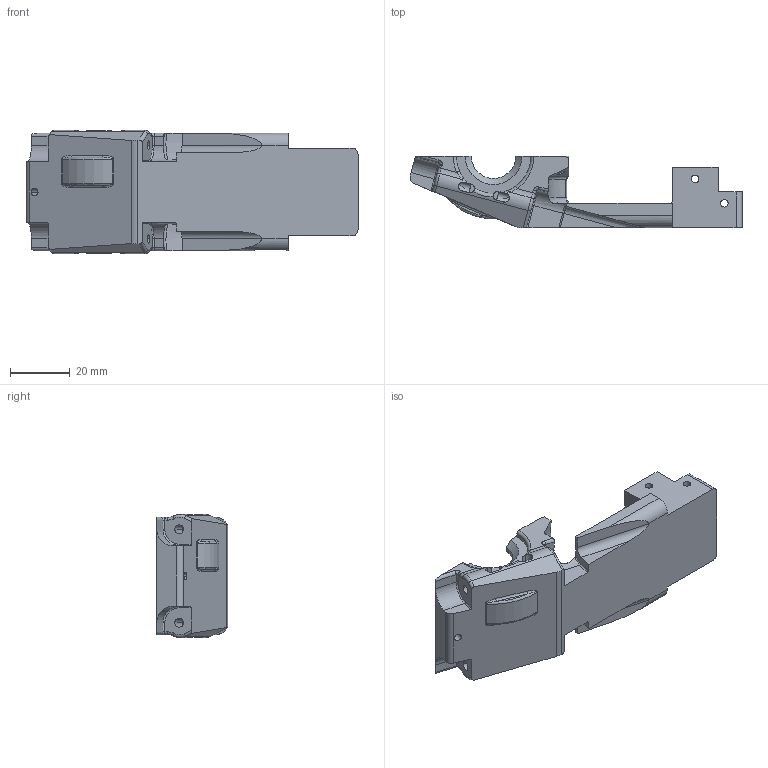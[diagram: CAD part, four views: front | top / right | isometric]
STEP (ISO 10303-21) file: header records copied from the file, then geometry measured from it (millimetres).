
FILE_DESCRIPTION (( 'STEP AP214' ), '1' );
FILE_NAME ('Ì44_ÏÌ_Äíèùå Ïåðåäíåíãî Äèôôåðåíöèàëà.STEP', '2019-03-21T14:08:51', ( '' ), ( '' ), 'SwSTEP 2.0', 'SolidWorks 2018', '' );
FILE_SCHEMA (( 'AUTOMOTIVE_DESIGN' ));
Length unit declared in the file: millimetre
Products named in the file (1): Ì44_ÏÌ_Äíèùå Ïåðåäíåíãî Äèôôåðåíöèàëà
Bounding box: 111.22 x 24 x 41.3 mm (x, y, z)
Volume: 35582.1 mm3; surface area: 16747.2 mm2
Topology: 1 solids, 1 shells, 302 faces, 807 edges, 510 vertices
Faces by surface type: cylinder 138, plane 97, torus 43, bspline 19, cone 5
Entity records: 10384 total; most frequent: CARTESIAN_POINT 2922, ORIENTED_EDGE 1614, DIRECTION 1538, EDGE_CURVE 807, AXIS2_PLACEMENT_3D 578, VERTEX_POINT 510, VECTOR 382, LINE 382
